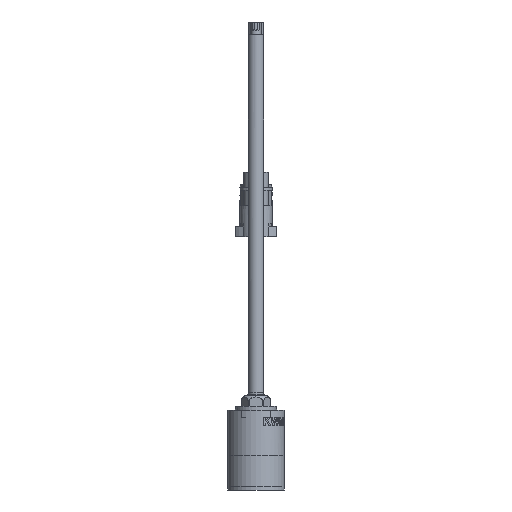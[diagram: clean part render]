
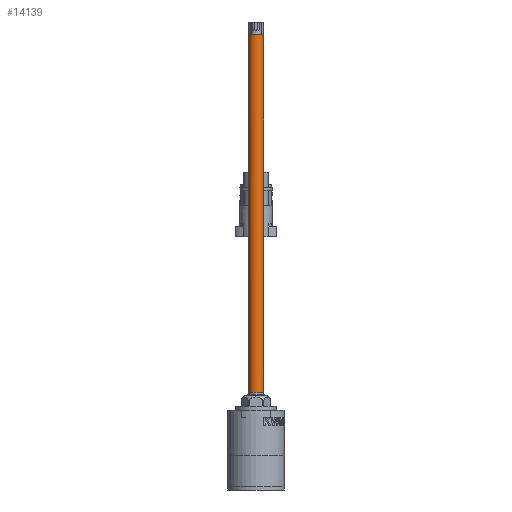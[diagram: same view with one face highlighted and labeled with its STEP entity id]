
A CAD part, left-side view. The second image highlights one B-rep face of the part: STEP entity #14139.
In plain terms, the highlighted cylindrical face has radius 3 mm (diameter 6 mm), a full revolution.
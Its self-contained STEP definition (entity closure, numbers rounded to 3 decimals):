
#7218=CYLINDRICAL_SURFACE('',#39766,3.);
#12730=CIRCLE('',#39765,3.);
#14139=ADVANCED_FACE('',(#16519,#16520),#7218,.T.);
#16519=FACE_BOUND('',#18115,.T.);
#16520=FACE_BOUND('',#18116,.T.);
#18115=EDGE_LOOP('',(#21391));
#18116=EDGE_LOOP('',(#21392));
#21391=ORIENTED_EDGE('',*,*,#33474,.T.);
#21392=ORIENTED_EDGE('',*,*,#33475,.T.);
#30123=VERTEX_POINT('',#55438);
#30124=VERTEX_POINT('',#55440);
#33474=EDGE_CURVE('',#30123,#30123,#37868,.T.);
#33475=EDGE_CURVE('',#30124,#30124,#12730,.T.);
#37868=B_SPLINE_CURVE_WITH_KNOTS('',3,(#55420,#55421,#55422,#55423,#55424,
#55425,#55426,#55427,#55428,#55429,#55430,#55431,#55432,#55433,#55434,#55435,
#55436,#55437),.UNSPECIFIED.,.T.,.F.,(2,2,2,2,2,2,2,2,2,2,2),(-0.125,0.,
0.125,0.25,0.375,0.5,0.625,0.75,0.875,1.,1.125),.UNSPECIFIED.);
#39765=AXIS2_PLACEMENT_3D('',#55439,#42976,#42977);
#39766=AXIS2_PLACEMENT_3D('',#55441,#42978,#42979);
#42976=DIRECTION('',(0.,0.,-1.));
#42977=DIRECTION('',(-1.,0.,0.));
#42978=DIRECTION('',(0.,0.,-1.));
#42979=DIRECTION('',(-1.,0.,0.));
#55420=CARTESIAN_POINT('',(-203.,0.786,37.8));
#55421=CARTESIAN_POINT('',(-203.,-0.785,37.8));
#55422=CARTESIAN_POINT('',(-202.677,-1.566,37.8));
#55423=CARTESIAN_POINT('',(-201.566,-2.676,37.8));
#55424=CARTESIAN_POINT('',(-200.786,-3.,37.8));
#55425=CARTESIAN_POINT('',(-199.215,-3.,37.8));
#55426=CARTESIAN_POINT('',(-198.434,-2.677,37.8));
#55427=CARTESIAN_POINT('',(-197.324,-1.566,37.8));
#55428=CARTESIAN_POINT('',(-197.,-0.786,37.8));
#55429=CARTESIAN_POINT('',(-197.,0.785,37.8));
#55430=CARTESIAN_POINT('',(-197.323,1.566,37.8));
#55431=CARTESIAN_POINT('',(-198.434,2.676,37.8));
#55432=CARTESIAN_POINT('',(-199.214,3.,37.8));
#55433=CARTESIAN_POINT('',(-200.785,3.,37.8));
#55434=CARTESIAN_POINT('',(-201.566,2.677,37.8));
#55435=CARTESIAN_POINT('',(-202.676,1.566,37.8));
#55436=CARTESIAN_POINT('',(-203.,0.786,37.8));
#55437=CARTESIAN_POINT('',(-203.,-0.785,37.8));
#55438=CARTESIAN_POINT('',(-203.,0.,37.8));
#55439=CARTESIAN_POINT('',(-200.,0.,175.9));
#55440=CARTESIAN_POINT('',(-203.,0.,175.9));
#55441=CARTESIAN_POINT('',(-200.,0.,30.9));
